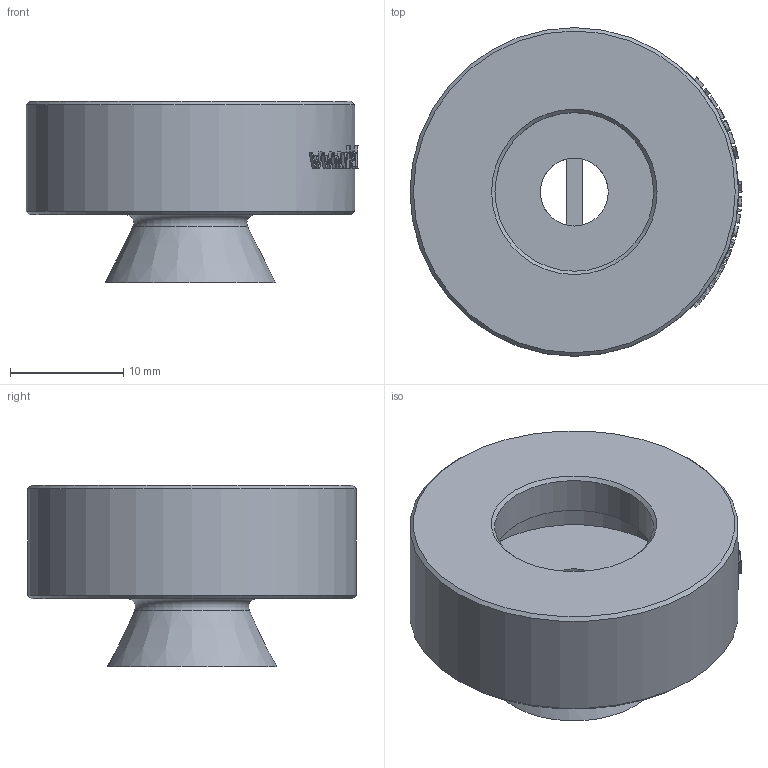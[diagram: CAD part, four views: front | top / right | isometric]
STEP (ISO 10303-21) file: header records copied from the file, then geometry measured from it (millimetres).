
FILE_DESCRIPTION( ( 'STEP AP203' ), '1' );
FILE_NAME( 'C:/撲啗紫賊-02/3D-蘋驍煎斜/Vacuum Pad/KPS series/KPS-5-15.stp', '2006-04-24T10:59:44', ( ' ' ), ( ' ' ), 'XStep 1.0', ' ', ' ' );
FILE_SCHEMA( ( 'CONFIG_CONTROL_DESIGN) ( )' ) );
Length unit declared in the file: metre
Products named in the file (1): 1
Bounding box: 29.3 x 29 x 16 mm (x, y, z)
Volume: 5296 mm3; surface area: 3407.8 mm2
Topology: 1 solids, 1 shells, 217 faces, 564 edges, 375 vertices
Faces by surface type: plane 108, bspline 72, cylinder 31, cone 5, torus 1
Full cylindrical faces by diameter (mm): 6 x1, 14 x1, 19.5 x1, 29 x1
Entity records: 10109 total; most frequent: CARTESIAN_POINT 5293, ORIENTED_EDGE 1094, DIRECTION 763, EDGE_CURVE 547, VERTEX_POINT 369, AXIS2_PLACEMENT_3D 265, EDGE_LOOP 258, LINE 233
